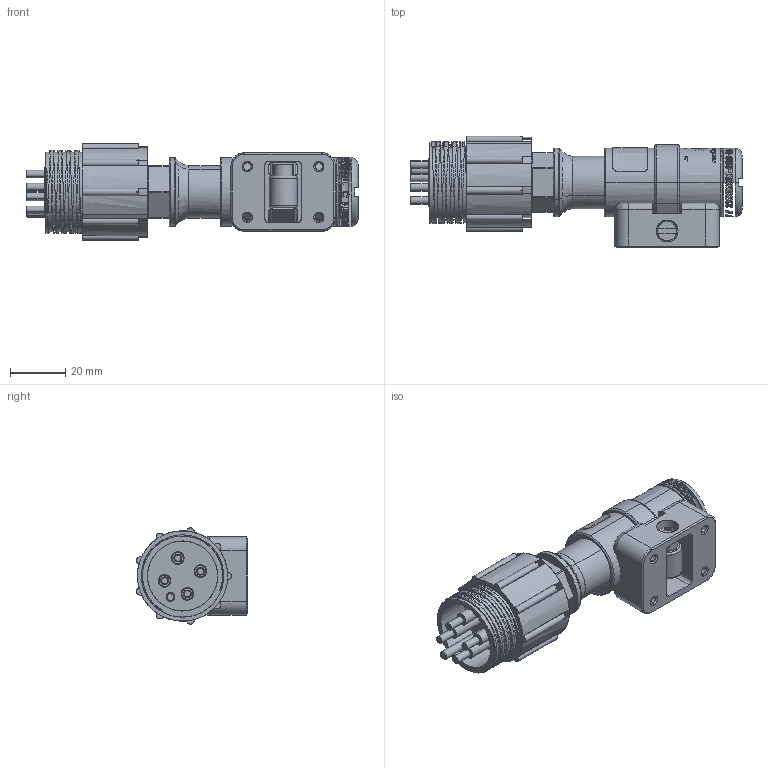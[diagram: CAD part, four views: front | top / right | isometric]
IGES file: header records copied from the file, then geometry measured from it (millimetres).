
Start section: SolidWorks IGES file using analytic representation for surfaces
Global section: file name: S:\3D_Product_Models\Cameras\NSC-SUBBH4-0A_11km_20181217a.IGS; native system: SolidWorks 2018; preprocessor: SolidWorks 2018; author: jon.simmons; date: 181217.140529; units: millimetre
Bounding box: 120.62 x 40.38 x 35 mm (x, y, z)
Surface area: 23558.6 mm2 (no closed solid volume)
Topology: 0 solids, 0 shells, 482 faces, 9710 edges, 9541 vertices
Faces by surface type: revolution 289, bspline 193
